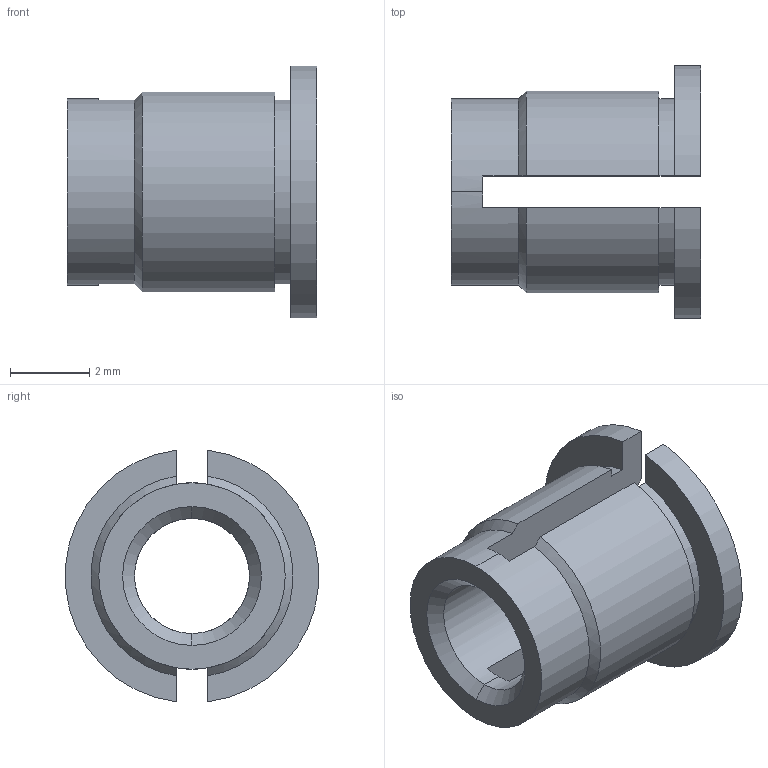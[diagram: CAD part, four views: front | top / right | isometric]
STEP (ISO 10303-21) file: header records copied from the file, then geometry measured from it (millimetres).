
FILE_DESCRIPTION (( 'STEP AP203' ), '1' );
FILE_NAME ('FSUK-EXPR-M03.5-S.STEP', '2021-04-15T17:29:12', ( '' ), ( '' ), 'SwSTEP 2.0', 'SolidWorks 2021', '' );
FILE_SCHEMA (( 'CONFIG_CONTROL_DESIGN' ));
Length unit declared in the file: millimetre
Products named in the file (1): FSUK-EXPR-M03.5-S
Bounding box: 6.3 x 6.38 x 6.35 mm (x, y, z)
Volume: 77.3 mm3; surface area: 215.3 mm2
Topology: 1 solids, 1 shells, 29 faces, 82 edges, 54 vertices
Faces by surface type: plane 13, cylinder 10, cone 6
Entity records: 1041 total; most frequent: CARTESIAN_POINT 190, DIRECTION 166, ORIENTED_EDGE 164, EDGE_CURVE 82, AXIS2_PLACEMENT_3D 62, VERTEX_POINT 54, VECTOR 42, LINE 42
